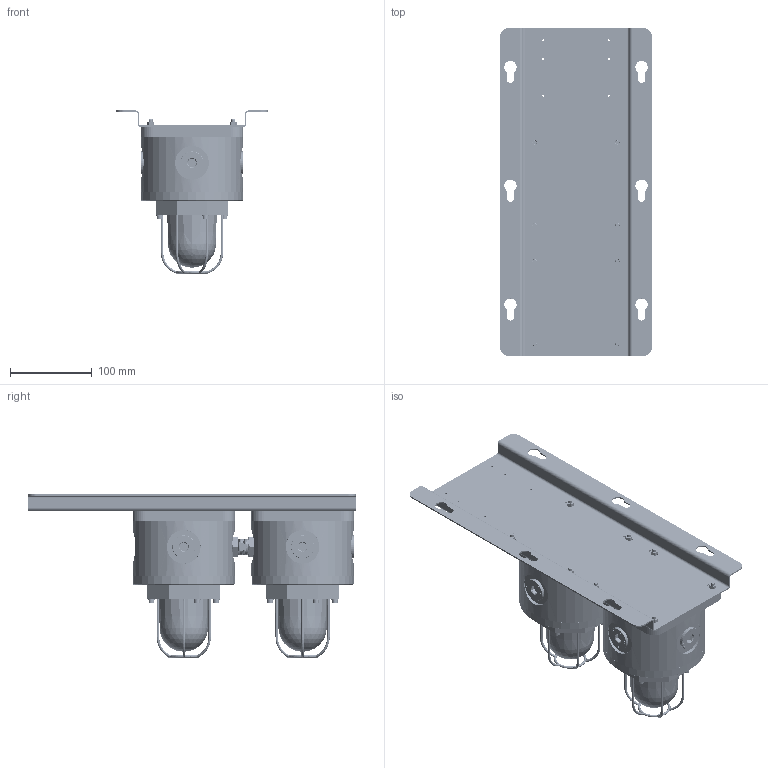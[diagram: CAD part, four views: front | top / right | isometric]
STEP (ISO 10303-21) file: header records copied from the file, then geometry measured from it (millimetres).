
FILE_DESCRIPTION((''),'2;1');
FILE_NAME('0-SL125-TYP2_ASM','2015-12-21T',('Administrator'),(''),'PRO/ENGINEER BY PARAMETRIC TECHNOLOGY CORPORATION, 2008090','PRO/ENGINEER BY PARAMETRIC TECHNOLOGY CORPORATION, 2008090','');
FILE_SCHEMA(('CONFIG_CONTROL_DESIGN'));
Length unit declared in the file: millimetre
Products named in the file (26): 50020110264; 55060110101; 55060110102; 50060110110; 50060110109; 55060170107; 50060111202; 50060110108; 50060111201; GTS5; 50000010301-M5; M4-10; M5-15-ALL; SANN5-075; 50050180237; 55100110920; 0-BC125_AF0_ASM; 50000010101; 50020110229; 0-BC125_AF1_ASM; 55020110203; LINE-9; 51872010006; 50020110207; 0-CT20_ASM; 0-SL125-TYP2_ASM
Assembly tree (83 placements, depth 3):
  0-SL125-TYP2_ASM
    50020110264
    0-BC125_AF0_ASM
      55060110101
      55060110102
      50060110110
      50060110109
      55060170107
      50060111202
      50060110108
      50060111201
      GTS5  x8
      50000010301-M5  x4
      M4-10  x4
      M5-15-ALL  x4
      SANN5-075  x4
      50050180237
      55100110920  x2
    50000010101
    50020110229
    0-BC125_AF1_ASM
      55060110101
      55060110102
      50060110110
      50060110109
      55060170107
      50060111202
      50060110108
      50060111201
      GTS5  x8
      50000010301-M5  x4
      M4-10  x4
      M5-15-ALL  x4
      SANN5-075  x4
      50050180237
      55100110920  x2
    55100110920
    0-CT20_ASM
      55020110203
      LINE-9
      51872010006  x2
      50020110207  x2
Bounding box: 185 x 400 x 199.2 mm (x, y, z)
Volume: 1613852.7 mm3; surface area: 708369.8 mm2
Topology: 88 solids, 172 shells, 8124 faces, 21839 edges, 14368 vertices
Faces by surface type: plane 6140, cylinder 1245, cone 484, torus 142, bspline 105, sphere 8
Entity records: 87754 total; most frequent: CARTESIAN_POINT 32388, ORIENTED_EDGE 11376, DIRECTION 11057, EDGE_CURVE 5753, VECTOR 4143, LINE 4143, VERTEX_POINT 3785, AXIS2_PLACEMENT_3D 3457
